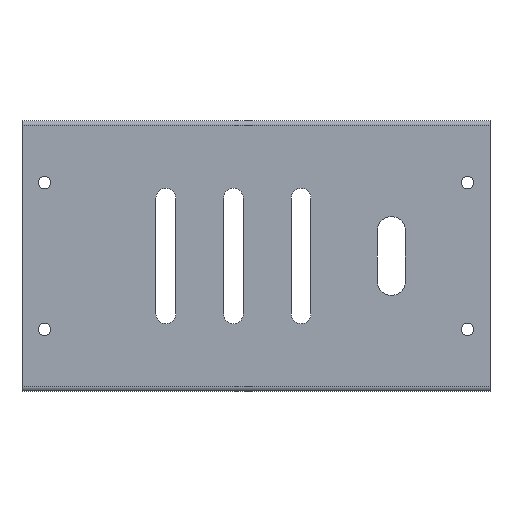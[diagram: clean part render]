
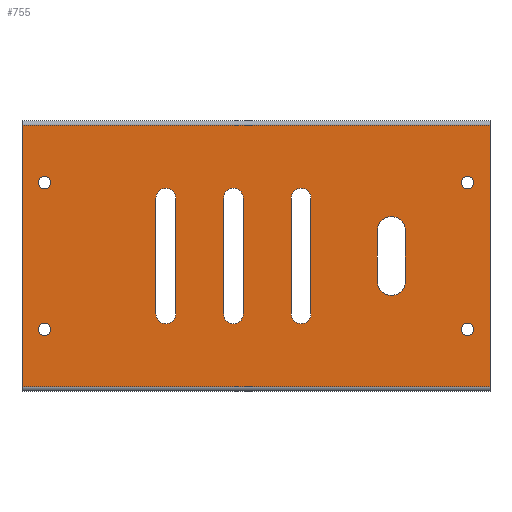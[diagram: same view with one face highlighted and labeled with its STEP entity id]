
A CAD part, top view. The second image highlights one B-rep face of the part: STEP entity #755.
In plain terms, the highlighted planar face has unit normal (0, 0, 1).
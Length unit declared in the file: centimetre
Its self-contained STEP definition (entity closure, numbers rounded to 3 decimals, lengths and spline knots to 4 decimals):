
#15=FACE_BOUND('',#152,.T.);
#16=FACE_BOUND('',#153,.T.);
#17=FACE_BOUND('',#154,.T.);
#18=FACE_BOUND('',#155,.T.);
#19=FACE_BOUND('',#156,.T.);
#20=FACE_BOUND('',#157,.T.);
#21=FACE_BOUND('',#158,.T.);
#22=FACE_BOUND('',#159,.T.);
#31=CIRCLE('',#783,0.175);
#33=CIRCLE('',#787,0.175);
#35=CIRCLE('',#791,0.175);
#37=CIRCLE('',#795,0.175);
#40=CIRCLE('',#799,0.11);
#42=CIRCLE('',#802,0.11);
#44=CIRCLE('',#805,0.11);
#46=CIRCLE('',#808,0.11);
#47=CIRCLE('',#811,0.175);
#49=CIRCLE('',#815,0.175);
#51=CIRCLE('',#819,0.25);
#53=CIRCLE('',#823,0.25);
#109=FACE_OUTER_BOUND('',#151,.T.);
#151=EDGE_LOOP('',(#611,#612,#613,#614));
#152=EDGE_LOOP('',(#615,#616,#617,#618));
#153=EDGE_LOOP('',(#619,#620,#621,#622));
#154=EDGE_LOOP('',(#623));
#155=EDGE_LOOP('',(#624));
#156=EDGE_LOOP('',(#625));
#157=EDGE_LOOP('',(#626));
#158=EDGE_LOOP('',(#627,#628,#629,#630));
#159=EDGE_LOOP('',(#631,#632,#633,#634));
#179=LINE('',#1081,#251);
#184=LINE('',#1095,#256);
#187=LINE('',#1105,#259);
#192=LINE('',#1119,#264);
#199=LINE('',#1153,#271);
#204=LINE('',#1167,#276);
#207=LINE('',#1177,#279);
#212=LINE('',#1191,#284);
#216=LINE('',#1205,#288);
#231=LINE('',#1241,#303);
#234=LINE('',#1247,#306);
#235=LINE('',#1248,#307);
#251=VECTOR('',#859,1.);
#256=VECTOR('',#872,1.);
#259=VECTOR('',#883,1.);
#264=VECTOR('',#896,1.);
#271=VECTOR('',#935,1.);
#276=VECTOR('',#948,1.);
#279=VECTOR('',#959,1.);
#284=VECTOR('',#972,1.);
#288=VECTOR('',#986,1.);
#303=VECTOR('',#1025,1.);
#306=VECTOR('',#1030,1.);
#307=VECTOR('',#1031,1.);
#323=VERTEX_POINT('',#1079);
#324=VERTEX_POINT('',#1080);
#327=VERTEX_POINT('',#1088);
#329=VERTEX_POINT('',#1094);
#331=VERTEX_POINT('',#1103);
#332=VERTEX_POINT('',#1104);
#335=VERTEX_POINT('',#1112);
#337=VERTEX_POINT('',#1118);
#340=VERTEX_POINT('',#1129);
#342=VERTEX_POINT('',#1135);
#344=VERTEX_POINT('',#1141);
#346=VERTEX_POINT('',#1147);
#347=VERTEX_POINT('',#1151);
#348=VERTEX_POINT('',#1152);
#351=VERTEX_POINT('',#1160);
#353=VERTEX_POINT('',#1166);
#355=VERTEX_POINT('',#1175);
#356=VERTEX_POINT('',#1176);
#359=VERTEX_POINT('',#1184);
#361=VERTEX_POINT('',#1190);
#365=VERTEX_POINT('',#1202);
#366=VERTEX_POINT('',#1204);
#375=VERTEX_POINT('',#1240);
#377=VERTEX_POINT('',#1246);
#387=EDGE_CURVE('',#323,#324,#179,.T.);
#391=EDGE_CURVE('',#324,#327,#31,.T.);
#394=EDGE_CURVE('',#327,#329,#184,.T.);
#397=EDGE_CURVE('',#329,#323,#33,.T.);
#399=EDGE_CURVE('',#331,#332,#187,.T.);
#403=EDGE_CURVE('',#332,#335,#35,.T.);
#406=EDGE_CURVE('',#335,#337,#192,.T.);
#409=EDGE_CURVE('',#337,#331,#37,.T.);
#413=EDGE_CURVE('',#340,#340,#40,.T.);
#416=EDGE_CURVE('',#342,#342,#42,.T.);
#419=EDGE_CURVE('',#344,#344,#44,.T.);
#422=EDGE_CURVE('',#346,#346,#46,.T.);
#423=EDGE_CURVE('',#347,#348,#199,.T.);
#427=EDGE_CURVE('',#348,#351,#47,.T.);
#430=EDGE_CURVE('',#351,#353,#204,.T.);
#433=EDGE_CURVE('',#353,#347,#49,.T.);
#435=EDGE_CURVE('',#355,#356,#207,.T.);
#439=EDGE_CURVE('',#356,#359,#51,.T.);
#442=EDGE_CURVE('',#359,#361,#212,.T.);
#445=EDGE_CURVE('',#361,#355,#53,.T.);
#449=EDGE_CURVE('',#366,#365,#216,.T.);
#467=EDGE_CURVE('',#375,#366,#231,.T.);
#470=EDGE_CURVE('',#365,#377,#234,.T.);
#471=EDGE_CURVE('',#377,#375,#235,.T.);
#611=ORIENTED_EDGE('',*,*,#449,.T.);
#612=ORIENTED_EDGE('',*,*,#470,.T.);
#613=ORIENTED_EDGE('',*,*,#471,.T.);
#614=ORIENTED_EDGE('',*,*,#467,.T.);
#615=ORIENTED_EDGE('',*,*,#442,.T.);
#616=ORIENTED_EDGE('',*,*,#445,.T.);
#617=ORIENTED_EDGE('',*,*,#435,.T.);
#618=ORIENTED_EDGE('',*,*,#439,.T.);
#619=ORIENTED_EDGE('',*,*,#430,.T.);
#620=ORIENTED_EDGE('',*,*,#433,.T.);
#621=ORIENTED_EDGE('',*,*,#423,.T.);
#622=ORIENTED_EDGE('',*,*,#427,.T.);
#623=ORIENTED_EDGE('',*,*,#422,.T.);
#624=ORIENTED_EDGE('',*,*,#419,.T.);
#625=ORIENTED_EDGE('',*,*,#416,.T.);
#626=ORIENTED_EDGE('',*,*,#413,.T.);
#627=ORIENTED_EDGE('',*,*,#406,.T.);
#628=ORIENTED_EDGE('',*,*,#409,.T.);
#629=ORIENTED_EDGE('',*,*,#399,.T.);
#630=ORIENTED_EDGE('',*,*,#403,.T.);
#631=ORIENTED_EDGE('',*,*,#394,.T.);
#632=ORIENTED_EDGE('',*,*,#397,.T.);
#633=ORIENTED_EDGE('',*,*,#387,.T.);
#634=ORIENTED_EDGE('',*,*,#391,.T.);
#715=PLANE('',#839);
#755=ADVANCED_FACE('',(#109,#15,#16,#17,#18,#19,#20,#21,#22),#715,.T.);
#783=AXIS2_PLACEMENT_3D('',#1089,#865,#866);
#787=AXIS2_PLACEMENT_3D('',#1100,#877,#878);
#791=AXIS2_PLACEMENT_3D('',#1113,#889,#890);
#795=AXIS2_PLACEMENT_3D('',#1124,#901,#902);
#799=AXIS2_PLACEMENT_3D('',#1131,#910,#911);
#802=AXIS2_PLACEMENT_3D('',#1137,#917,#918);
#805=AXIS2_PLACEMENT_3D('',#1143,#924,#925);
#808=AXIS2_PLACEMENT_3D('',#1149,#931,#932);
#811=AXIS2_PLACEMENT_3D('',#1161,#941,#942);
#815=AXIS2_PLACEMENT_3D('',#1172,#953,#954);
#819=AXIS2_PLACEMENT_3D('',#1185,#965,#966);
#823=AXIS2_PLACEMENT_3D('',#1196,#977,#978);
#839=AXIS2_PLACEMENT_3D('',#1245,#1028,#1029);
#859=DIRECTION('',(0.,-1.,0.));
#865=DIRECTION('center_axis',(0.,0.,-1.));
#866=DIRECTION('ref_axis',(-1.,0.,0.));
#872=DIRECTION('',(0.,1.,0.));
#877=DIRECTION('center_axis',(0.,0.,-1.));
#878=DIRECTION('ref_axis',(1.,0.,0.));
#883=DIRECTION('',(0.,-1.,0.));
#889=DIRECTION('center_axis',(0.,0.,-1.));
#890=DIRECTION('ref_axis',(-1.,0.,0.));
#896=DIRECTION('',(0.,1.,0.));
#901=DIRECTION('center_axis',(0.,0.,-1.));
#902=DIRECTION('ref_axis',(1.,0.,0.));
#910=DIRECTION('center_axis',(0.,0.,-1.));
#911=DIRECTION('ref_axis',(1.,0.,0.));
#917=DIRECTION('center_axis',(0.,0.,-1.));
#918=DIRECTION('ref_axis',(1.,0.,0.));
#924=DIRECTION('center_axis',(0.,0.,-1.));
#925=DIRECTION('ref_axis',(1.,0.,0.));
#931=DIRECTION('center_axis',(0.,0.,-1.));
#932=DIRECTION('ref_axis',(1.,0.,0.));
#935=DIRECTION('',(0.,-1.,0.));
#941=DIRECTION('center_axis',(0.,0.,-1.));
#942=DIRECTION('ref_axis',(-1.,0.,0.));
#948=DIRECTION('',(0.,1.,0.));
#953=DIRECTION('center_axis',(0.,0.,-1.));
#954=DIRECTION('ref_axis',(1.,0.,0.));
#959=DIRECTION('',(0.,-1.,0.));
#965=DIRECTION('center_axis',(0.,0.,-1.));
#966=DIRECTION('ref_axis',(-1.,0.,0.));
#972=DIRECTION('',(0.,1.,0.));
#977=DIRECTION('center_axis',(0.,0.,-1.));
#978=DIRECTION('ref_axis',(1.,0.,0.));
#986=DIRECTION('',(-1.,0.,0.));
#1025=DIRECTION('',(0.,1.,0.));
#1028=DIRECTION('center_axis',(0.,0.,1.));
#1029=DIRECTION('ref_axis',(1.,0.,0.));
#1030=DIRECTION('',(0.,-1.,0.));
#1031=DIRECTION('',(1.,0.,0.));
#1079=CARTESIAN_POINT('',(6.175,1.025,4.5));
#1080=CARTESIAN_POINT('',(6.175,-1.025,4.5));
#1081=CARTESIAN_POINT('',(6.175,-0.5125,4.5));
#1088=CARTESIAN_POINT('',(5.825,-1.025,4.5));
#1089=CARTESIAN_POINT('Origin',(6.,-1.025,4.5));
#1094=CARTESIAN_POINT('',(5.825,1.025,4.5));
#1095=CARTESIAN_POINT('',(5.825,0.5125,4.5));
#1100=CARTESIAN_POINT('Origin',(6.,1.025,4.5));
#1103=CARTESIAN_POINT('',(3.775,1.025,4.5));
#1104=CARTESIAN_POINT('',(3.775,-1.025,4.5));
#1105=CARTESIAN_POINT('',(3.775,-0.5125,4.5));
#1112=CARTESIAN_POINT('',(3.425,-1.025,4.5));
#1113=CARTESIAN_POINT('Origin',(3.6,-1.025,4.5));
#1118=CARTESIAN_POINT('',(3.425,1.025,4.5));
#1119=CARTESIAN_POINT('',(3.425,0.5125,4.5));
#1124=CARTESIAN_POINT('Origin',(3.6,1.025,4.5));
#1129=CARTESIAN_POINT('',(8.84,1.3,4.5));
#1131=CARTESIAN_POINT('Origin',(8.95,1.3,4.5));
#1135=CARTESIAN_POINT('',(1.34,1.3,4.5));
#1137=CARTESIAN_POINT('Origin',(1.45,1.3,4.5));
#1141=CARTESIAN_POINT('',(8.84,-1.3,4.5));
#1143=CARTESIAN_POINT('Origin',(8.95,-1.3,4.5));
#1147=CARTESIAN_POINT('',(1.34,-1.3,4.5));
#1149=CARTESIAN_POINT('Origin',(1.45,-1.3,4.5));
#1151=CARTESIAN_POINT('',(4.975,1.025,4.5));
#1152=CARTESIAN_POINT('',(4.975,-1.025,4.5));
#1153=CARTESIAN_POINT('',(4.975,-0.5125,4.5));
#1160=CARTESIAN_POINT('',(4.625,-1.025,4.5));
#1161=CARTESIAN_POINT('Origin',(4.8,-1.025,4.5));
#1166=CARTESIAN_POINT('',(4.625,1.025,4.5));
#1167=CARTESIAN_POINT('',(4.625,0.5125,4.5));
#1172=CARTESIAN_POINT('Origin',(4.8,1.025,4.5));
#1175=CARTESIAN_POINT('',(7.85,0.45,4.5));
#1176=CARTESIAN_POINT('',(7.85,-0.45,4.5));
#1177=CARTESIAN_POINT('',(7.85,-0.225,4.5));
#1184=CARTESIAN_POINT('',(7.35,-0.45,4.5));
#1185=CARTESIAN_POINT('Origin',(7.6,-0.45,4.5));
#1190=CARTESIAN_POINT('',(7.35,0.45,4.5));
#1191=CARTESIAN_POINT('',(7.35,0.225,4.5));
#1196=CARTESIAN_POINT('Origin',(7.6,0.45,4.5));
#1202=CARTESIAN_POINT('',(1.05,2.319,4.5));
#1204=CARTESIAN_POINT('',(9.35,2.319,4.5));
#1205=CARTESIAN_POINT('',(3.125,2.319,4.5));
#1240=CARTESIAN_POINT('',(9.35,-2.319,4.5));
#1241=CARTESIAN_POINT('',(9.35,-2.4,4.5));
#1245=CARTESIAN_POINT('Origin',(5.2,0.,4.5));
#1246=CARTESIAN_POINT('',(1.05,-2.319,4.5));
#1247=CARTESIAN_POINT('',(1.05,2.4,4.5));
#1248=CARTESIAN_POINT('',(7.275,-2.319,4.5));
